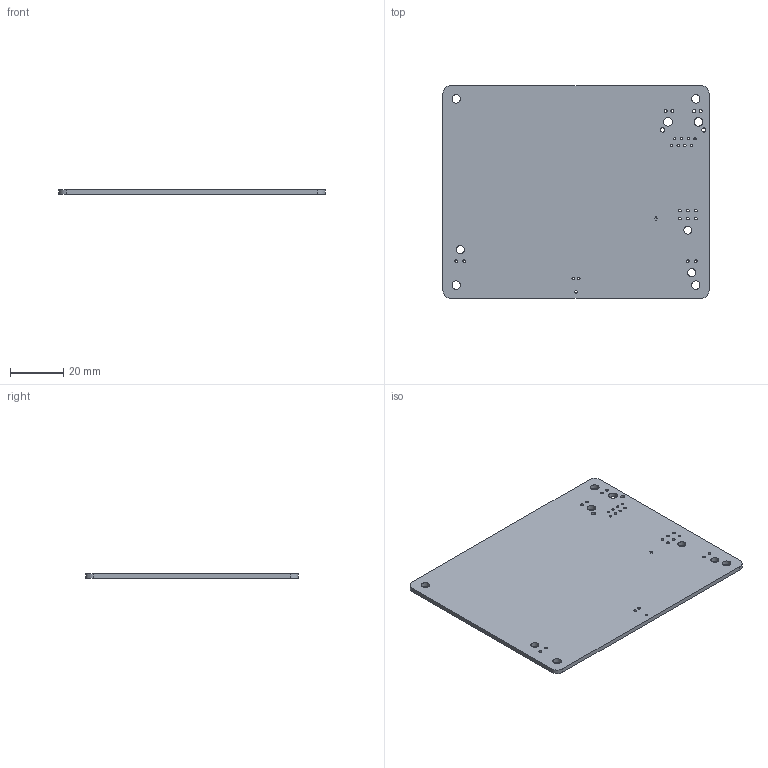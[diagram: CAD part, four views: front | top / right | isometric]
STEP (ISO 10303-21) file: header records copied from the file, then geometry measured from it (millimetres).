
FILE_DESCRIPTION(('Open CASCADE Model'),'2;1');
FILE_NAME('Open CASCADE Shape Model','2026-10-28T12:19:31',('Author'),( 'Open CASCADE'),'Open CASCADE STEP processor 7.5','Open CASCADE 7.5' ,'Unknown');
FILE_SCHEMA(('AUTOMOTIVE_DESIGN { 1 0 10303 214 1 1 1 1 }'));
Length unit declared in the file: millimetre
Products named in the file (3): PCB; Board; Open CASCADE STEP translator 7.5 1.1.1
Assembly tree (2 placements, depth 3):
  PCB
    Board
      Open CASCADE STEP translator 7.5 1.1.1
Bounding box: 100 x 80 x 1.62 mm (x, y, z)
Volume: 12807.4 mm3; surface area: 16663.6 mm2
Topology: 1 solids, 1 shells, 50 faces, 144 edges, 96 vertices
Faces by surface type: cylinder 44, plane 6
Full cylindrical faces by diameter (mm): 0.2 x4, 0.9 x8, 0.99 x3, 1.02 x10, 1.1 x4, 1.6 x2, 3 x3, 3.2 x4, 3.25 x2
Entity records: 1913 total; most frequent: DIRECTION 338, CARTESIAN_POINT 293, ORIENTED_EDGE 288, EDGE_CURVE 144, AXIS2_PLACEMENT_3D 141, FACE_BOUND 130, EDGE_LOOP 130, VERTEX_POINT 96
